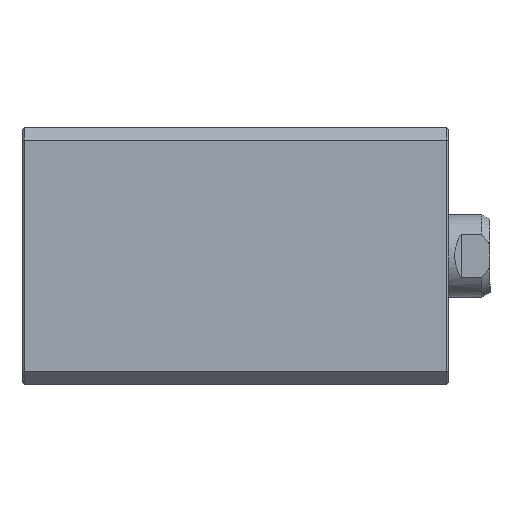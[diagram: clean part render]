
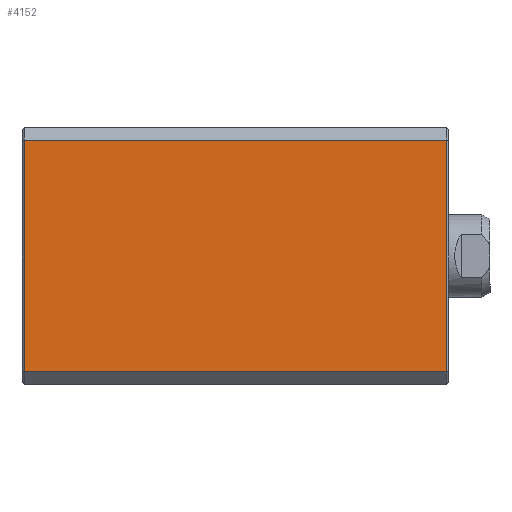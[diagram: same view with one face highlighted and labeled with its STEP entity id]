
A CAD part, left-side view. The second image highlights one B-rep face of the part: STEP entity #4152.
In plain terms, the highlighted planar face has unit normal (-1, 0, 0).
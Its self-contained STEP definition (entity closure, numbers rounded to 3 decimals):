
#132=LINE('',#5821,#426);
#134=LINE('',#5825,#428);
#135=LINE('',#5827,#429);
#136=LINE('',#5829,#430);
#426=VECTOR('',#4755,1000.);
#428=VECTOR('',#4759,1000.);
#429=VECTOR('',#4760,1000.);
#430=VECTOR('',#4761,1000.);
#903=ORIENTED_EDGE('',*,*,#1606,.F.);
#904=ORIENTED_EDGE('',*,*,#1608,.T.);
#905=ORIENTED_EDGE('',*,*,#1609,.T.);
#906=ORIENTED_EDGE('',*,*,#1610,.T.);
#1606=EDGE_CURVE('',#1964,#1965,#132,.T.);
#1608=EDGE_CURVE('',#1964,#1966,#134,.F.);
#1609=EDGE_CURVE('',#1966,#1967,#135,.T.);
#1610=EDGE_CURVE('',#1967,#1965,#136,.T.);
#1964=VERTEX_POINT('',#5820);
#1965=VERTEX_POINT('',#5822);
#1966=VERTEX_POINT('',#5826);
#1967=VERTEX_POINT('',#5828);
#2248=EDGE_LOOP('',(#903,#904,#905,#906));
#2486=FACE_BOUND('',#2248,.T.);
#2675=PLANE('',#4371);
#4152=ADVANCED_FACE('',(#2486),#2675,.F.);
#4371=AXIS2_PLACEMENT_3D('',#5824,#4757,#4758);
#4755=DIRECTION('',(0.,-1.,0.));
#4757=DIRECTION('',(1.,0.,0.));
#4758=DIRECTION('',(0.,0.,-1.));
#4759=DIRECTION('',(0.,0.,1.));
#4760=DIRECTION('',(0.,-1.,0.));
#4761=DIRECTION('',(0.,0.,1.));
#5820=CARTESIAN_POINT('',(-31.,102.5,28.));
#5821=CARTESIAN_POINT('',(-31.,83.,28.));
#5822=CARTESIAN_POINT('',(-31.,0.5,28.));
#5824=CARTESIAN_POINT('',(-31.,83.,28.));
#5825=CARTESIAN_POINT('',(-31.,102.5,0.));
#5826=CARTESIAN_POINT('',(-31.,102.5,-28.));
#5827=CARTESIAN_POINT('',(-31.,83.,-28.));
#5828=CARTESIAN_POINT('',(-31.,0.5,-28.));
#5829=CARTESIAN_POINT('',(-31.,0.5,28.));
